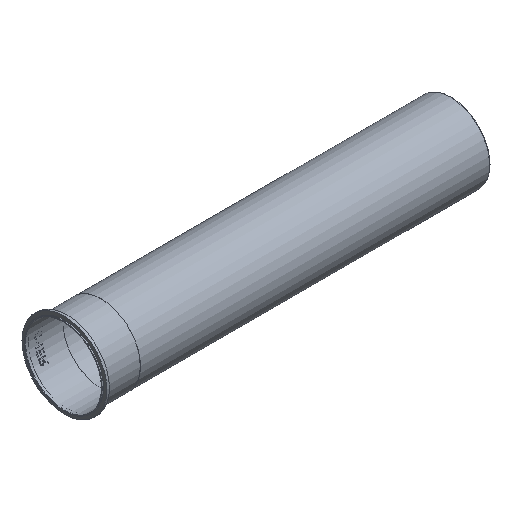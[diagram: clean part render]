
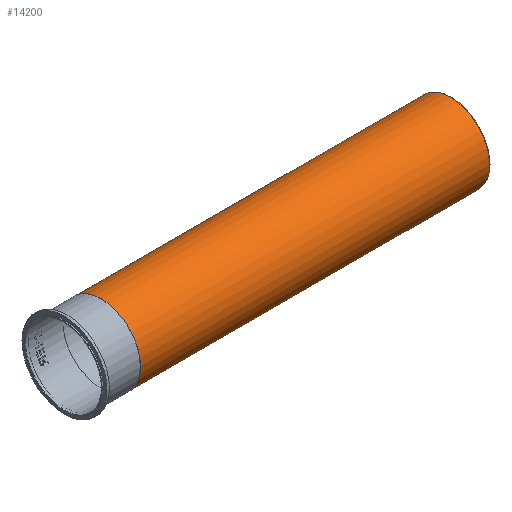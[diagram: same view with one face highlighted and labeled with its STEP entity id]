
A CAD part, isometric view. The second image highlights one B-rep face of the part: STEP entity #14200.
In plain terms, the highlighted cylindrical face has radius 99.949 mm (diameter 199.898 mm), a full revolution.
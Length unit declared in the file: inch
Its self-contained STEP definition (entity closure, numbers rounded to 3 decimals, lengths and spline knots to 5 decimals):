
#14169=CARTESIAN_POINT('',(3.88,3.935,0.0));
#14170=VERTEX_POINT('',#14169);
#14171=CARTESIAN_POINT('',(3.88,0.0,0.0));
#14172=DIRECTION('',(1.0,0.0,0.0));
#14173=DIRECTION('',(0.0,1.0,0.0));
#14174=AXIS2_PLACEMENT_3D('',#14171,#14172,#14173);
#14175=CIRCLE('',#14174,3.935);
#14176=EDGE_CURVE('',#14170,#14170,#14175,.T.);
#14181=CARTESIAN_POINT('',(21.62504,0.0,0.0));
#14182=DIRECTION('',(1.0,0.0,0.0));
#14183=DIRECTION('',(0.0,1.0,0.0));
#14184=AXIS2_PLACEMENT_3D('',#14181,#14182,#14183);
#14185=CYLINDRICAL_SURFACE('',#14184,3.935);
#14186=CARTESIAN_POINT('',(39.37008,3.935,0.0));
#14187=VERTEX_POINT('',#14186);
#14188=CARTESIAN_POINT('',(39.37008,0.0,0.0));
#14189=DIRECTION('',(1.0,0.0,0.0));
#14190=DIRECTION('',(0.0,1.0,0.0));
#14191=AXIS2_PLACEMENT_3D('',#14188,#14189,#14190);
#14192=CIRCLE('',#14191,3.935);
#14193=EDGE_CURVE('',#14187,#14187,#14192,.T.);
#14194=ORIENTED_EDGE('',*,*,#14193,.F.);
#14195=EDGE_LOOP('',(#14194));
#14196=FACE_OUTER_BOUND('',#14195,.T.);
#14197=ORIENTED_EDGE('',*,*,#14176,.T.);
#14198=EDGE_LOOP('',(#14197));
#14199=FACE_BOUND('',#14198,.T.);
#14200=ADVANCED_FACE('',(#14196,#14199),#14185,.T.);
